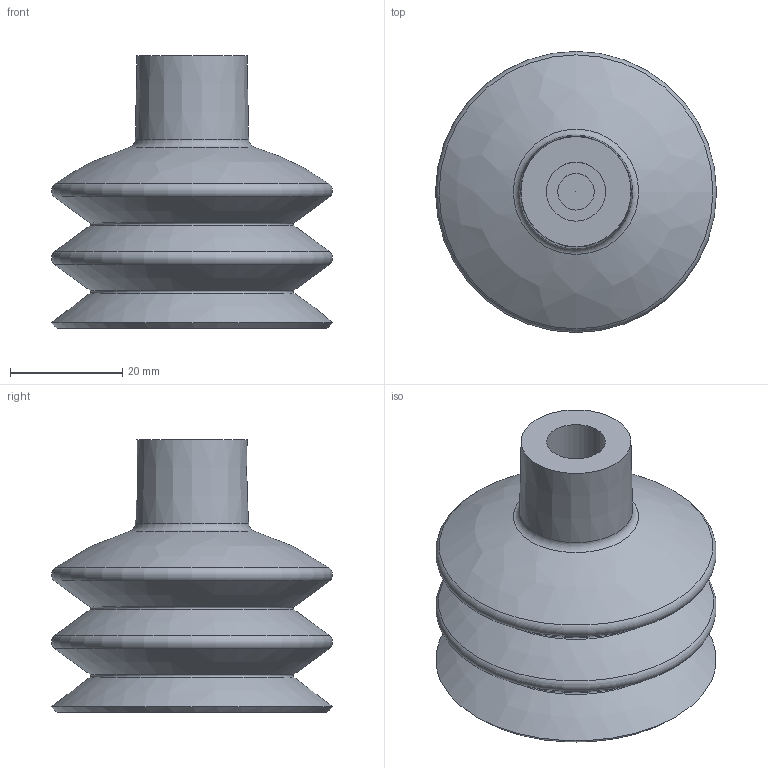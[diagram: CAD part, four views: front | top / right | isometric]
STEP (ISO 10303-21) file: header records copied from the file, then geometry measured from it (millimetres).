
FILE_DESCRIPTION(/* description */ (''),/* implementation_level */ '2;1');
FILE_NAME(/* name */ 'W:\Technik\Konstruktion\CAD-Daten\Vakuumsauger\21_\21.050.084\21.050.084_Kd neu.stp',/* time_stamp */ '2017-07-07T10:15:28+02:00',/* author */ ('DFloßmann'),/* organization */ (''),/* preprocessor_version */ 'ST-DEVELOPER v16.5',/* originating_system */ 'Autodesk Inventor 2017',/* authorisation */ '');
FILE_SCHEMA (('AUTOMOTIVE_DESIGN { 1 0 10303 214 3 1 1 }'));
Length unit declared in the file: millimetre
Products named in the file (1): 21.050.084_Kd neu
Bounding box: 50 x 50 x 48.5 mm (x, y, z)
Volume: 50085 mm3; surface area: 17880.9 mm2
Topology: 1 solids, 5 shells, 219 faces, 678 edges, 439 vertices
Faces by surface type: bspline 66, plane 63, cylinder 43, torus 39, cone 8
Full cylindrical faces by diameter (mm): 6.5 x1, 10.5 x1, 16 x1
Entity records: 10968 total; most frequent: CARTESIAN_POINT 5271, ORIENTED_EDGE 1332, DIRECTION 1102, EDGE_CURVE 663, AXIS2_PLACEMENT_3D 473, VERTEX_POINT 435, CIRCLE 267, EDGE_LOOP 233
